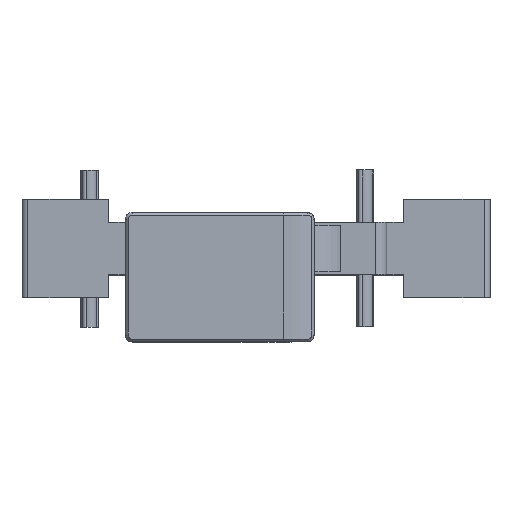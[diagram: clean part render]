
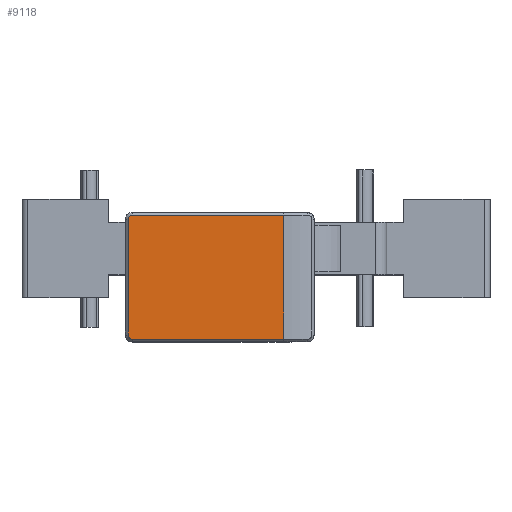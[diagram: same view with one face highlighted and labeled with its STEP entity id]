
A CAD part, top view. The second image highlights one B-rep face of the part: STEP entity #9118.
In plain terms, the highlighted planar face has unit normal (0, 0, 1).
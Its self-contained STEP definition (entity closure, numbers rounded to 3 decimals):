
#7421=DIRECTION('',(0.,1.,0.));
#7422=VECTOR('',#7421,19.9);
#7423=CARTESIAN_POINT('',(0.48,1.2,5.4));
#7424=LINE('',#7423,#7422);
#7425=CARTESIAN_POINT('',(1.2,21.1,5.4));
#7426=DIRECTION('',(0.,0.,-1.));
#7427=DIRECTION('',(-1.,0.,0.));
#7428=AXIS2_PLACEMENT_3D('',#7425,#7426,#7427);
#7430=DIRECTION('',(1.,0.,0.));
#7431=VECTOR('',#7430,26.041);
#7432=CARTESIAN_POINT('',(1.2,21.82,5.4));
#7433=LINE('',#7432,#7431);
#7434=DIRECTION('',(-1.,0.,0.));
#7435=VECTOR('',#7434,26.041);
#7436=CARTESIAN_POINT('',(27.241,0.48,5.4));
#7437=LINE('',#7436,#7435);
#7438=CARTESIAN_POINT('',(1.2,1.2,5.4));
#7439=DIRECTION('',(0.,0.,-1.));
#7440=DIRECTION('',(0.,-1.,0.));
#7441=AXIS2_PLACEMENT_3D('',#7438,#7439,#7440);
#7498=DIRECTION('',(0.,1.,0.));
#7499=VECTOR('',#7498,21.34);
#7500=CARTESIAN_POINT('',(27.241,0.48,5.4));
#7501=LINE('',#7500,#7499);
#8104=CARTESIAN_POINT('',(27.241,0.48,5.4));
#8105=CARTESIAN_POINT('',(1.2,0.48,5.4));
#8106=VERTEX_POINT('',#8104);
#8107=VERTEX_POINT('',#8105);
#8108=CARTESIAN_POINT('',(0.48,1.2,5.4));
#8109=CARTESIAN_POINT('',(0.48,21.1,5.4));
#8110=VERTEX_POINT('',#8108);
#8111=VERTEX_POINT('',#8109);
#8112=CARTESIAN_POINT('',(1.2,21.82,5.4));
#8113=VERTEX_POINT('',#8112);
#8114=CARTESIAN_POINT('',(27.241,21.82,5.4));
#8115=VERTEX_POINT('',#8114);
#9100=CARTESIAN_POINT('',(0.,51.,5.4));
#9101=DIRECTION('',(0.,0.,1.));
#9102=DIRECTION('',(1.,0.,0.));
#9103=AXIS2_PLACEMENT_3D('',#9100,#9101,#9102);
#9104=PLANE('',#9103);
#9106=ORIENTED_EDGE('',*,*,#9105,.T.);
#9108=ORIENTED_EDGE('',*,*,#9107,.T.);
#9110=ORIENTED_EDGE('',*,*,#9109,.T.);
#9112=ORIENTED_EDGE('',*,*,#9111,.F.);
#9113=ORIENTED_EDGE('',*,*,#9090,.T.);
#9115=ORIENTED_EDGE('',*,*,#9114,.T.);
#9116=EDGE_LOOP('',(#9106,#9108,#9110,#9112,#9113,#9115));
#9117=FACE_OUTER_BOUND('',#9116,.F.);
#7429=CIRCLE('',#7428,0.72);
#7442=CIRCLE('',#7441,0.72);
#9090=EDGE_CURVE('',#8106,#8107,#7437,.T.);
#9105=EDGE_CURVE('',#8110,#8111,#7424,.T.);
#9107=EDGE_CURVE('',#8111,#8113,#7429,.T.);
#9109=EDGE_CURVE('',#8113,#8115,#7433,.T.);
#9111=EDGE_CURVE('',#8106,#8115,#7501,.T.);
#9114=EDGE_CURVE('',#8107,#8110,#7442,.T.);
#9118=ADVANCED_FACE('',(#9117),#9104,.T.);
